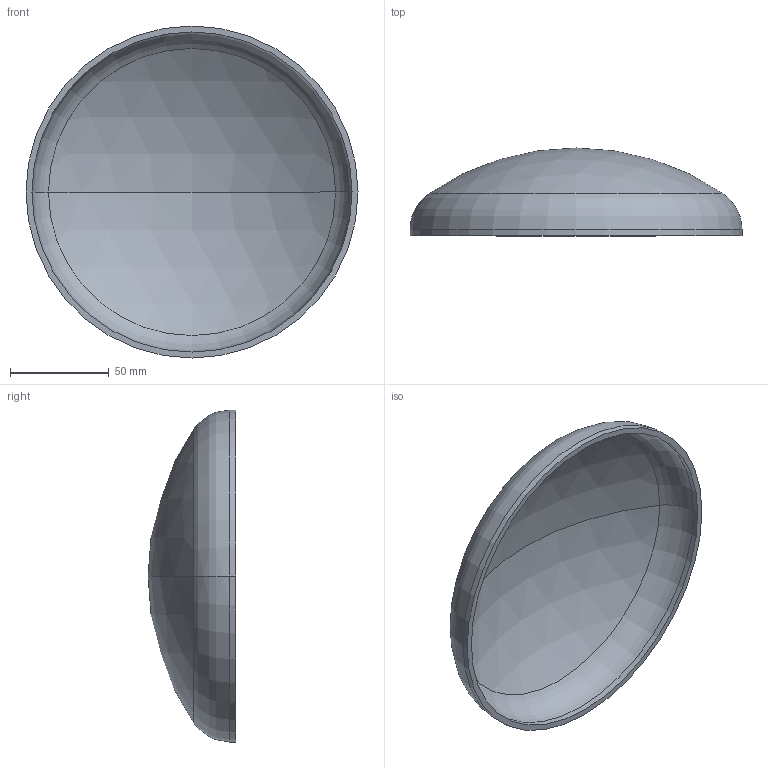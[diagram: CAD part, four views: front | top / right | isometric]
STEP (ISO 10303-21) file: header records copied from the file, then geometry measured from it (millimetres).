
FILE_DESCRIPTION (( 'STEP AP203' ), '1' );
FILE_NAME ('3D_R365_168.3x3_173372020.STEP', '2024-07-16T06:55:31', ( '' ), ( '' ), 'SwSTEP 2.0', 'SolidWorks 2024', '' );
FILE_SCHEMA (( 'CONFIG_CONTROL_DESIGN' ));
Length unit declared in the file: millimetre
Products named in the file (1): 3D_R365_168.3x3_173372020
Bounding box: 168.3 x 44.5 x 168.3 mm (x, y, z)
Volume: 90956.8 mm3; surface area: 62214.6 mm2
Topology: 1 solids, 1 shells, 13 faces, 24 edges, 14 vertices
Faces by surface type: sphere 4, torus 4, cylinder 4, plane 1
Entity records: 407 total; most frequent: DIRECTION 72, CARTESIAN_POINT 52, ORIENTED_EDGE 48, AXIS2_PLACEMENT_3D 34, EDGE_CURVE 24, CIRCLE 20, VERTEX_POINT 14, EDGE_LOOP 14
